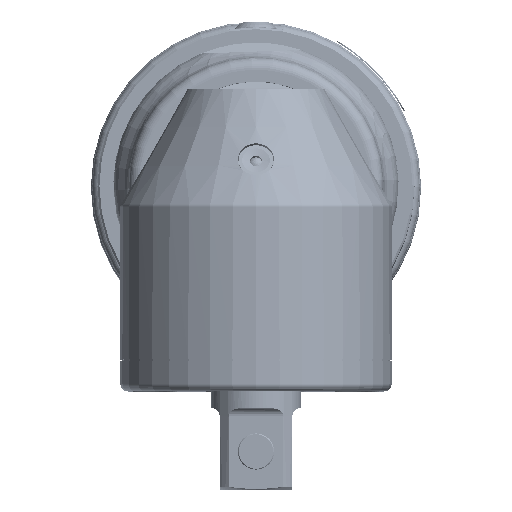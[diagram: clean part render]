
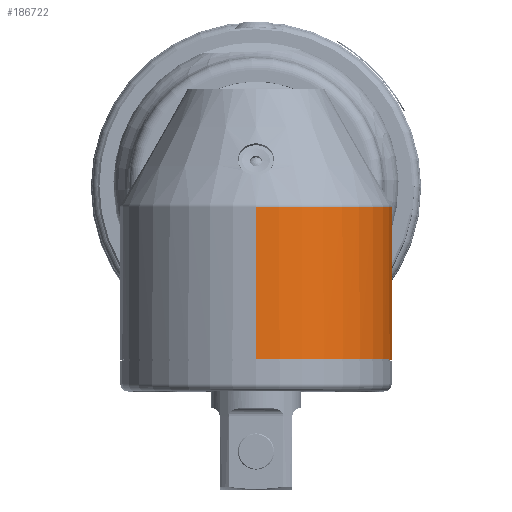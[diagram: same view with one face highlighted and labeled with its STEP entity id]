
A CAD part, top view. The second image highlights one B-rep face of the part: STEP entity #186722.
In plain terms, the highlighted cylindrical face has radius 17.78 mm (diameter 35.56 mm), a partial arc.
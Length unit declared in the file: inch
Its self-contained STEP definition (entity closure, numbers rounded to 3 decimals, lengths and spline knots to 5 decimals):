
#3610 = VERTEX_POINT ( 'NONE', #175339 ) ;
#4242 = LINE ( 'NONE', #79008, #244482 ) ;
#16758 = CARTESIAN_POINT ( 'NONE',  ( 0., -0.59, 3.3665 ) ) ;
#18045 = CARTESIAN_POINT ( 'NONE',  ( 0.0172, -0.59, 3.3665 ) ) ;
#19337 = CARTESIAN_POINT ( 'NONE',  ( 0.34639, -0.45491, 3.45806 ) ) ;
#24637 = DIRECTION ( 'NONE',  ( 0., 0., -1. ) ) ;
#25937 = AXIS2_PLACEMENT_3D ( 'NONE', #87789, #27513, #208342 ) ;
#26020 = ORIENTED_EDGE ( 'NONE', *, *, #170320, .T. ) ;
#27231 = B_SPLINE_CURVE_WITH_KNOTS ( 'NONE', 3,
 ( #238744, #75143, #55502, #77714 ),
 .UNSPECIFIED., .F., .F.,
 ( 4, 4 ),
 ( 0., 0.0006 ),
 .UNSPECIFIED. ) ;
#27513 = DIRECTION ( 'NONE',  ( 0., -1., 0. ) ) ;
#34561 = EDGE_CURVE ( 'NONE', #101190, #72717, #60099, .T. ) ;
#37707 = CARTESIAN_POINT ( 'NONE',  ( 0.3344, -0.46536, 3.45138 ) ) ;
#39581 = B_SPLINE_CURVE_WITH_KNOTS ( 'NONE', 3,
 ( #16758, #18045, #137375, #77019, #160918, #236802, #159648, #259042, #217244, #80923, #139919, #56080, #58646, #37707, #19337, #95366, #255171, #176662, #200172, #96661, #117658, #197601, #57346, #138625, #195044, #218524 ),
 .UNSPECIFIED., .F., .F.,
 ( 4, 2, 2, 2, 2, 2, 2, 2, 2, 2, 2, 2, 4 ),
 ( 0.02114, 0.02245, 0.02377, 0.02641, 0.02772, 0.02904, 0.03036, 0.03168, 0.03431, 0.03694, 0.03826, 0.03958, 0.04221 ),
 .UNSPECIFIED. ) ;
#43416 = VERTEX_POINT ( 'NONE', #205167 ) ;
#49675 = EDGE_CURVE ( 'NONE', #3610, #43416, #4242, .T. ) ;
#55502 = CARTESIAN_POINT ( 'NONE',  ( 0.54298, -0.11804, 3.62465 ) ) ;
#56080 = CARTESIAN_POINT ( 'NONE',  ( 0.29681, -0.49451, 3.43238 ) ) ;
#57346 = CARTESIAN_POINT ( 'NONE',  ( 0.50318, -0.22341, 3.5798 ) ) ;
#58646 = CARTESIAN_POINT ( 'NONE',  ( 0.30964, -0.48514, 3.43855 ) ) ;
#60099 = LINE ( 'NONE', #259202, #202795 ) ;
#65991 = ORIENTED_EDGE ( 'NONE', *, *, #34561, .F. ) ;
#71293 = ORIENTED_EDGE ( 'NONE', *, *, #160121, .T. ) ;
#71900 = CARTESIAN_POINT ( 'NONE',  ( 0., -0.59, 3.3665 ) ) ;
#72717 = VERTEX_POINT ( 'NONE', #136068 ) ;
#75143 = CARTESIAN_POINT ( 'NONE',  ( 0.53795, -0.1167, 3.61855 ) ) ;
#76934 = AXIS2_PLACEMENT_3D ( 'NONE', #238766, #179965, #157758 ) ;
#77019 = CARTESIAN_POINT ( 'NONE',  ( 0.06867, -0.58557, 3.36966 ) ) ;
#77714 = CARTESIAN_POINT ( 'NONE',  ( 0.54793, -0.11804, 3.63088 ) ) ;
#79008 = CARTESIAN_POINT ( 'NONE',  ( 0., 0.6, 4.7665 ) ) ;
#80923 = CARTESIAN_POINT ( 'NONE',  ( 0.25645, -0.52046, 3.41499 ) ) ;
#87789 = CARTESIAN_POINT ( 'NONE',  ( 0., -0.11804, 4.0665 ) ) ;
#95366 = CARTESIAN_POINT ( 'NONE',  ( 0.3807, -0.42231, 3.47847 ) ) ;
#96661 = CARTESIAN_POINT ( 'NONE',  ( 0.47768, -0.28177, 3.55471 ) ) ;
#98122 = DIRECTION ( 'NONE',  ( 0., -1., 0. ) ) ;
#101190 = VERTEX_POINT ( 'NONE', #71900 ) ;
#105445 = CIRCLE ( 'NONE', #25937, 0.7 ) ;
#117658 = CARTESIAN_POINT ( 'NONE',  ( 0.48462, -0.26742, 3.56131 ) ) ;
#122938 = CIRCLE ( 'NONE', #76934, 0.7 ) ;
#136068 = CARTESIAN_POINT ( 'NONE',  ( 0., -0.905, 3.3665 ) ) ;
#137375 = CARTESIAN_POINT ( 'NONE',  ( 0.03438, -0.58912, 3.36713 ) ) ;
#138625 = CARTESIAN_POINT ( 'NONE',  ( 0.51899, -0.17788, 3.59652 ) ) ;
#139919 = CARTESIAN_POINT ( 'NONE',  ( 0.27022, -0.51217, 3.42059 ) ) ;
#142647 = VERTEX_POINT ( 'NONE', #202660 ) ;
#154209 = AXIS2_PLACEMENT_3D ( 'NONE', #205509, #226400, #24637 ) ;
#157758 = DIRECTION ( 'NONE',  ( 0., 0., 1. ) ) ;
#159648 = CARTESIAN_POINT ( 'NONE',  ( 0.16704, -0.56257, 3.38597 ) ) ;
#160121 = EDGE_CURVE ( 'NONE', #43416, #72717, #122938, .T. ) ;
#160918 = CARTESIAN_POINT ( 'NONE',  ( 0.08559, -0.58292, 3.37155 ) ) ;
#170320 = EDGE_CURVE ( 'NONE', #213507, #142647, #27231, .T. ) ;
#171709 = EDGE_CURVE ( 'NONE', #142647, #3610, #105445, .T. ) ;
#175339 = CARTESIAN_POINT ( 'NONE',  ( 0., -0.11804, 4.7665 ) ) ;
#176662 = CARTESIAN_POINT ( 'NONE',  ( 0.43866, -0.34972, 3.52049 ) ) ;
#179965 = DIRECTION ( 'NONE',  ( 0., 1., 0. ) ) ;
#186722 = ADVANCED_FACE ( 'NONE', ( #204232 ), #244726, .T. ) ;
#195044 = CARTESIAN_POINT ( 'NONE',  ( 0.52738, -0.14628, 3.60611 ) ) ;
#197601 = CARTESIAN_POINT ( 'NONE',  ( 0.49736, -0.23827, 3.57384 ) ) ;
#200172 = CARTESIAN_POINT ( 'NONE',  ( 0.45538, -0.32356, 3.5345 ) ) ;
#200251 = EDGE_CURVE ( 'NONE', #101190, #213507, #39581, .T. ) ;
#202660 = CARTESIAN_POINT ( 'NONE',  ( 0.54793, -0.11804, 3.63088 ) ) ;
#202795 = VECTOR ( 'NONE', #98122, 39.37008 ) ;
#203550 = ORIENTED_EDGE ( 'NONE', *, *, #200251, .T. ) ;
#204232 = FACE_OUTER_BOUND ( 'NONE', #245880, .T. ) ;
#204405 = ORIENTED_EDGE ( 'NONE', *, *, #49675, .T. ) ;
#205167 = CARTESIAN_POINT ( 'NONE',  ( 0., -0.905, 4.7665 ) ) ;
#205509 = CARTESIAN_POINT ( 'NONE',  ( 0., 0.6, 4.0665 ) ) ;
#207317 = CARTESIAN_POINT ( 'NONE',  ( 0.53336, -0.11299, 3.61315 ) ) ;
#208342 = DIRECTION ( 'NONE',  ( 0., 0., -1. ) ) ;
#213507 = VERTEX_POINT ( 'NONE', #207317 ) ;
#217244 = CARTESIAN_POINT ( 'NONE',  ( 0.22787, -0.5359, 3.40445 ) ) ;
#218524 = CARTESIAN_POINT ( 'NONE',  ( 0.53336, -0.11299, 3.61315 ) ) ;
#226400 = DIRECTION ( 'NONE',  ( 0., -1., 0. ) ) ;
#235874 = ORIENTED_EDGE ( 'NONE', *, *, #171709, .T. ) ;
#236802 = CARTESIAN_POINT ( 'NONE',  ( 0.13523, -0.57261, 3.37887 ) ) ;
#238705 = DIRECTION ( 'NONE',  ( 0., -1., 0. ) ) ;
#238744 = CARTESIAN_POINT ( 'NONE',  ( 0.53336, -0.11299, 3.61315 ) ) ;
#238766 = CARTESIAN_POINT ( 'NONE',  ( 0., -0.905, 4.0665 ) ) ;
#244482 = VECTOR ( 'NONE', #238705, 39.37008 ) ;
#244726 = CYLINDRICAL_SURFACE ( 'NONE', #154209, 0.7 ) ;
#245880 = EDGE_LOOP ( 'NONE', ( #235874, #204405, #71293, #65991, #203550, #26020 ) ) ;
#255171 = CARTESIAN_POINT ( 'NONE',  ( 0.40131, -0.39909, 3.49249 ) ) ;
#259042 = CARTESIAN_POINT ( 'NONE',  ( 0.21301, -0.54308, 3.39951 ) ) ;
#259202 = CARTESIAN_POINT ( 'NONE',  ( 0., 0.6, 3.3665 ) ) ;
